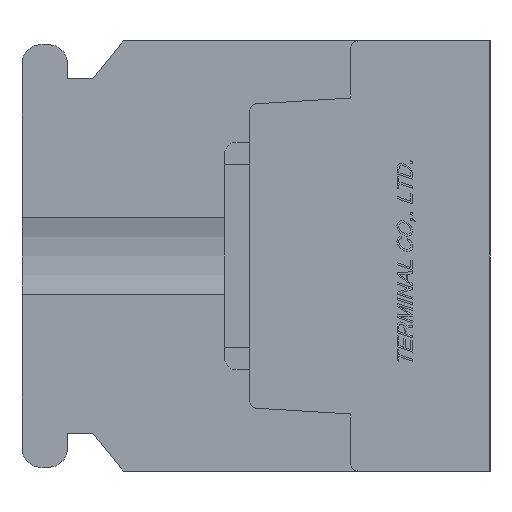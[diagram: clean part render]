
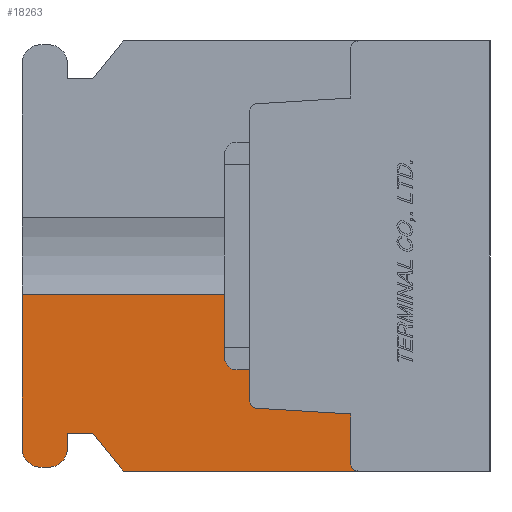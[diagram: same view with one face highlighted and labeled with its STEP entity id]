
A CAD part, left-side view. The second image highlights one B-rep face of the part: STEP entity #18263.
In plain terms, the highlighted planar face has unit normal (-1, 0, 0).
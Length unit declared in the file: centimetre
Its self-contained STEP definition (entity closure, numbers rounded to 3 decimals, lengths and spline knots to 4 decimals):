
#1283=VECTOR('',#19916,1.);
#1284=VECTOR('',#19917,1.);
#1285=VECTOR('',#19918,1.);
#1286=VECTOR('',#19921,1.);
#1287=VECTOR('',#19924,1.);
#1288=VECTOR('',#19925,1.);
#1289=VECTOR('',#19926,1.);
#1290=VECTOR('',#19927,1.);
#1291=VECTOR('',#19930,1.);
#1292=VECTOR('',#19931,1.);
#3216=LINE('',#25013,#1283);
#3217=LINE('',#25016,#1284);
#3218=LINE('',#25018,#1285);
#3219=LINE('',#25022,#1286);
#3220=LINE('',#25026,#1287);
#3221=LINE('',#25028,#1288);
#3222=LINE('',#25030,#1289);
#3223=LINE('',#25032,#1290);
#3224=LINE('',#25036,#1291);
#3225=LINE('',#25038,#1292);
#4768=PLANE('',#30084);
#5760=VERTEX_POINT('',#25014);
#5761=VERTEX_POINT('',#25015);
#5762=VERTEX_POINT('',#25017);
#5763=VERTEX_POINT('',#25019);
#5764=VERTEX_POINT('',#25021);
#5765=VERTEX_POINT('',#25023);
#5766=VERTEX_POINT('',#25025);
#5767=VERTEX_POINT('',#25027);
#5768=VERTEX_POINT('',#25029);
#5769=VERTEX_POINT('',#25031);
#5770=VERTEX_POINT('',#25033);
#5771=VERTEX_POINT('',#25035);
#5772=VERTEX_POINT('',#25037);
#5773=VERTEX_POINT('',#25039);
#7156=CIRCLE('',#30085,0.075);
#7157=CIRCLE('',#30086,0.075);
#7158=CIRCLE('',#30087,0.03);
#7159=CIRCLE('',#30088,0.03);
#8260=EDGE_CURVE('',#5760,#5761,#3216,.T.);
#8261=EDGE_CURVE('',#5760,#5762,#3217,.T.);
#8262=EDGE_CURVE('',#5763,#5762,#3218,.T.);
#8263=EDGE_CURVE('',#5764,#5763,#7156,.T.);
#8264=EDGE_CURVE('',#5765,#5764,#3219,.T.);
#8265=EDGE_CURVE('',#5766,#5765,#7157,.T.);
#8266=EDGE_CURVE('',#5767,#5766,#3220,.T.);
#8267=EDGE_CURVE('',#5768,#5767,#3221,.T.);
#8268=EDGE_CURVE('',#5769,#5768,#3222,.T.);
#8269=EDGE_CURVE('',#5770,#5769,#3223,.T.);
#8270=EDGE_CURVE('',#5771,#5770,#7158,.T.);
#8271=EDGE_CURVE('',#5772,#5771,#3224,.T.);
#8272=EDGE_CURVE('',#5773,#5772,#3225,.T.);
#8273=EDGE_CURVE('',#5761,#5773,#7159,.T.);
#11652=ORIENTED_EDGE('',*,*,#8260,.F.);
#11653=ORIENTED_EDGE('',*,*,#8261,.T.);
#11654=ORIENTED_EDGE('',*,*,#8262,.F.);
#11655=ORIENTED_EDGE('',*,*,#8263,.F.);
#11656=ORIENTED_EDGE('',*,*,#8264,.F.);
#11657=ORIENTED_EDGE('',*,*,#8265,.F.);
#11658=ORIENTED_EDGE('',*,*,#8266,.F.);
#11659=ORIENTED_EDGE('',*,*,#8267,.F.);
#11660=ORIENTED_EDGE('',*,*,#8268,.F.);
#11661=ORIENTED_EDGE('',*,*,#8269,.F.);
#11662=ORIENTED_EDGE('',*,*,#8270,.F.);
#11663=ORIENTED_EDGE('',*,*,#8271,.F.);
#11664=ORIENTED_EDGE('',*,*,#8272,.F.);
#11665=ORIENTED_EDGE('',*,*,#8273,.F.);
#16051=EDGE_LOOP('',(#11652,#11653,#11654,#11655,#11656,#11657,#11658,#11659,
#11660,#11661,#11662,#11663,#11664,#11665));
#17171=FACE_BOUND('',#16051,.T.);
#18263=ADVANCED_FACE('',(#17171),#4768,.F.);
#19915=DIRECTION('',(1.,0.,0.));
#19916=DIRECTION('',(0.,0.,-1.));
#19917=DIRECTION('',(0.,1.,0.));
#19918=DIRECTION('',(0.,0.,1.));
#19919=DIRECTION('',(1.,0.,0.));
#19920=DIRECTION('',(0.,0.,-0.075));
#19921=DIRECTION('',(0.,1.,0.));
#19922=DIRECTION('',(1.,0.,0.));
#19923=DIRECTION('',(0.,0.,-0.075));
#19924=DIRECTION('',(0.,0.,-1.));
#19925=DIRECTION('',(0.,1.,0.));
#19926=DIRECTION('',(0.,0.625,0.781));
#19927=DIRECTION('',(0.,1.,0.));
#19928=DIRECTION('',(-1.,0.,0.));
#19929=DIRECTION('',(0.,0.,0.03));
#19930=DIRECTION('',(0.,0.,-1.));
#19931=DIRECTION('',(0.,-0.998,-0.061));
#19932=DIRECTION('',(-1.,0.,0.));
#19933=DIRECTION('',(0.,0.,0.03));
#25012=CARTESIAN_POINT('',(-1.1,0.9454,0.));
#25013=CARTESIAN_POINT('',(-1.1,0.95,0.5718));
#25014=CARTESIAN_POINT('',(-1.1,0.95,-0.1521));
#25015=CARTESIAN_POINT('',(-1.1,0.95,-0.5718));
#25016=CARTESIAN_POINT('',(-1.1,1.4,-0.1521));
#25017=CARTESIAN_POINT('',(-1.1,1.85,-0.1521));
#25018=CARTESIAN_POINT('',(-1.1,1.85,-0.76));
#25019=CARTESIAN_POINT('',(-1.1,1.85,-0.76));
#25020=CARTESIAN_POINT('',(-1.1,1.775,-0.76));
#25021=CARTESIAN_POINT('',(-1.1,1.775,-0.835));
#25022=CARTESIAN_POINT('',(-1.1,1.745,-0.835));
#25023=CARTESIAN_POINT('',(-1.1,1.745,-0.835));
#25024=CARTESIAN_POINT('',(-1.1,1.745,-0.76));
#25025=CARTESIAN_POINT('',(-1.1,1.67,-0.76));
#25026=CARTESIAN_POINT('',(-1.1,1.67,-0.7));
#25027=CARTESIAN_POINT('',(-1.1,1.67,-0.7));
#25028=CARTESIAN_POINT('',(-1.1,1.57,-0.7));
#25029=CARTESIAN_POINT('',(-1.1,1.57,-0.7));
#25030=CARTESIAN_POINT('',(-1.1,1.45,-0.85));
#25031=CARTESIAN_POINT('',(-1.1,1.45,-0.85));
#25032=CARTESIAN_POINT('',(-1.1,0.,-0.85));
#25033=CARTESIAN_POINT('',(-1.1,0.52,-0.85));
#25034=CARTESIAN_POINT('',(-1.1,0.52,-0.82));
#25035=CARTESIAN_POINT('',(-1.1,0.55,-0.82));
#25036=CARTESIAN_POINT('',(-1.1,0.55,-0.6245));
#25037=CARTESIAN_POINT('',(-1.1,0.55,-0.6245));
#25038=CARTESIAN_POINT('',(-1.1,0.9218,-0.6017));
#25039=CARTESIAN_POINT('',(-1.1,0.9218,-0.6017));
#25040=CARTESIAN_POINT('',(-1.1,0.92,-0.5718));
#30084=AXIS2_PLACEMENT_3D('',#25012,#19915,$);
#30085=AXIS2_PLACEMENT_3D('',#25020,#19919,#19920);
#30086=AXIS2_PLACEMENT_3D('',#25024,#19922,#19923);
#30087=AXIS2_PLACEMENT_3D('',#25034,#19928,#19929);
#30088=AXIS2_PLACEMENT_3D('',#25040,#19932,#19933);
